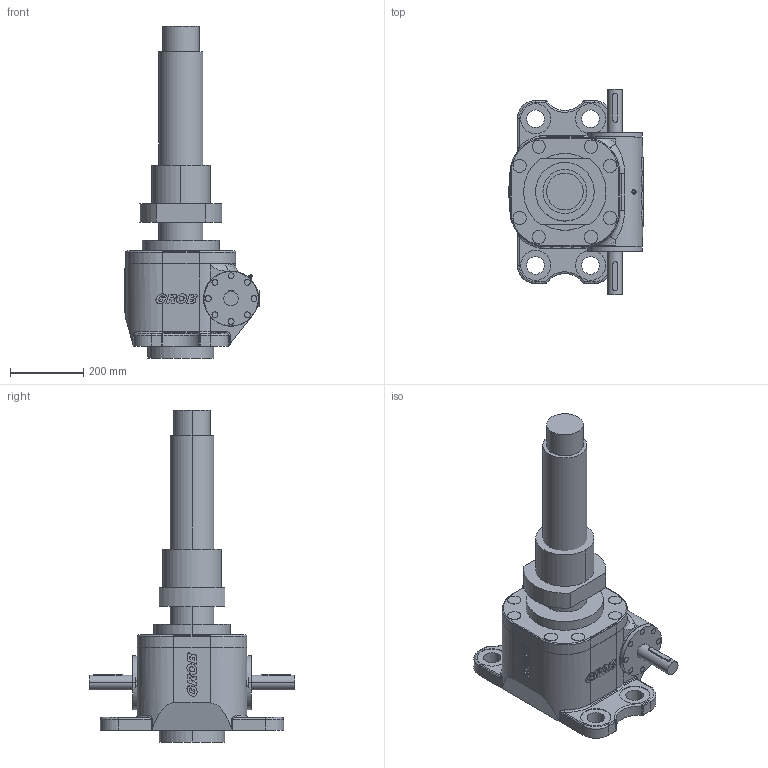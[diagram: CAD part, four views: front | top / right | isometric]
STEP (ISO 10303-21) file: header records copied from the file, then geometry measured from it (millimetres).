
FILE_DESCRIPTION(('STEP AP203'),'1');
FILE_NAME('mc50-lmn-f-1f-z-0260-0515-tr120x16-ab-o_0.stp','2023-12-20T14:56:46',('TraceParts'),('TraceParts S.A.'),'Spatial InterOp 3D',' ',' ');
FILE_SCHEMA(('CONFIG_CONTROL_DESIGN'));
Length unit declared in the file: millimetre
Products named in the file (1): 1
Bounding box: 367.4 x 560 x 906 mm (x, y, z)
Volume: 38286634.4 mm3; surface area: 1142769 mm2
Topology: 3 solids, 3 shells, 709 faces, 1834 edges, 1196 vertices
Faces by surface type: cylinder 429, plane 220, bspline 26, cone 18, torus 12, sphere 4
Entity records: 24270 total; most frequent: CARTESIAN_POINT 6475, DIRECTION 3894, ORIENTED_EDGE 3656, EDGE_CURVE 1828, AXIS2_PLACEMENT_3D 1538, VERTEX_POINT 1196, CIRCLE 822, LINE 818
